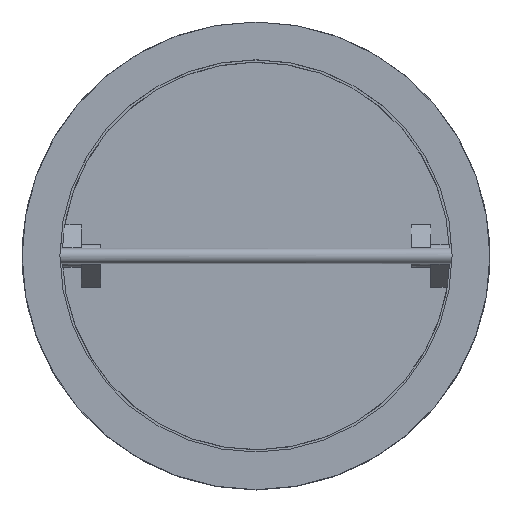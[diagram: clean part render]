
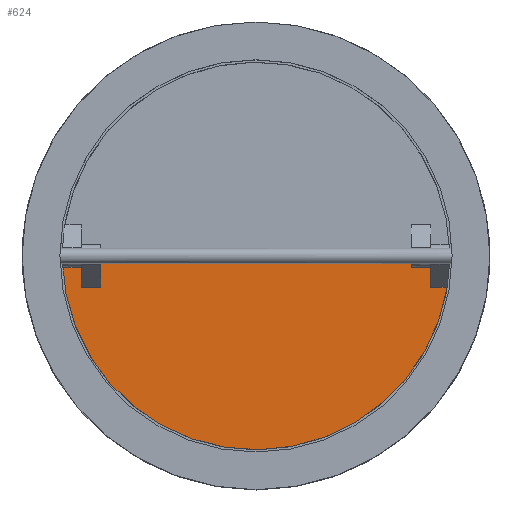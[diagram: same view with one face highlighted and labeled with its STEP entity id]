
A CAD part, top view. The second image highlights one B-rep face of the part: STEP entity #624.
In plain terms, the highlighted planar face has unit normal (0, 0, 1).
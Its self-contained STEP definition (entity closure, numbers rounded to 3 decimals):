
#624=ADVANCED_FACE('',(#1209),#1211,.T.);
#1209=FACE_BOUND('',#1210,.T.);
#1210=EDGE_LOOP('',(#1631,#1632,#1633,#1634,#1635,#1636,#1637,#1638));
#1211=PLANE('',#1212);
#1212=AXIS2_PLACEMENT_3D('',#1213,#1214,#1215);
#1213=CARTESIAN_POINT('',(0.,0.,64.));
#1214=DIRECTION('',(0.,0.,1.));
#1215=DIRECTION('',(0.,1.,0.));
#1631=ORIENTED_EDGE('',*,*,#1880,.F.);
#1632=ORIENTED_EDGE('',*,*,#1881,.F.);
#1633=ORIENTED_EDGE('',*,*,#1828,.T.);
#1634=ORIENTED_EDGE('',*,*,#1838,.T.);
#1635=ORIENTED_EDGE('',*,*,#1882,.F.);
#1636=ORIENTED_EDGE('',*,*,#1883,.F.);
#1637=ORIENTED_EDGE('',*,*,#1832,.T.);
#1638=ORIENTED_EDGE('',*,*,#1884,.F.);
#1828=EDGE_CURVE('',#2129,#2127,#2130,.T.);
#1832=EDGE_CURVE('',#2137,#2135,#2138,.T.);
#1838=EDGE_CURVE('',#2127,#2146,#2148,.T.);
#1880=EDGE_CURVE('',#2215,#2216,#2217,.T.);
#1881=EDGE_CURVE('',#2129,#2215,#2218,.T.);
#1882=EDGE_CURVE('',#2219,#2146,#2220,.T.);
#1883=EDGE_CURVE('',#2137,#2219,#2221,.T.);
#1884=EDGE_CURVE('',#2216,#2135,#2222,.F.);
#2127=VERTEX_POINT('',#3912);
#2129=VERTEX_POINT('',#3916);
#2130=LINE('',#3917,#3918);
#2135=VERTEX_POINT('',#3928);
#2137=VERTEX_POINT('',#3932);
#2138=LINE('',#3933,#3934);
#2146=VERTEX_POINT('',#3982);
#2148=CIRCLE('',#3987,202.5);
#2215=VERTEX_POINT('',#4292);
#2216=VERTEX_POINT('',#4293);
#2217=LINE('',#4294,#4295);
#2218=LINE('',#4297,#4298);
#2219=VERTEX_POINT('',#4300);
#2220=LINE('',#4301,#4302);
#2221=LINE('',#4304,#4305);
#2222=LINE('',#4307,#4308);
#3912=CARTESIAN_POINT('',(-202.46,-4.,64.));
#3916=CARTESIAN_POINT('',(-182.54,-4.,64.));
#3917=CARTESIAN_POINT('',(-182.54,-4.,64.));
#3918=VECTOR('',#3919,1.);
#3919=DIRECTION('',(-1.,0.,0.));
#3928=CARTESIAN_POINT('',(-162.54,-4.,64.));
#3932=CARTESIAN_POINT('',(182.46,-4.,64.));
#3933=CARTESIAN_POINT('',(182.46,-4.,64.));
#3934=VECTOR('',#3935,1.);
#3935=DIRECTION('',(-1.,0.,0.));
#3982=CARTESIAN_POINT('',(199.884,-32.447,64.));
#3987=AXIS2_PLACEMENT_3D('',#3988,#3989,#3990);
#3988=CARTESIAN_POINT('',(0.,0.,64.));
#3989=DIRECTION('',(0.,0.,1.));
#3990=DIRECTION('',(-1.,-0.02,0.));
#4292=CARTESIAN_POINT('',(-182.54,-32.447,64.));
#4293=CARTESIAN_POINT('',(-162.54,-32.447,64.));
#4294=CARTESIAN_POINT('',(-182.54,-32.447,64.));
#4295=VECTOR('',#4296,1.);
#4296=DIRECTION('',(1.,0.,0.));
#4297=CARTESIAN_POINT('',(-182.54,-4.,64.));
#4298=VECTOR('',#4299,1.);
#4299=DIRECTION('',(0.,-1.,0.));
#4300=CARTESIAN_POINT('',(182.46,-32.447,64.));
#4301=CARTESIAN_POINT('',(182.46,-32.447,64.));
#4302=VECTOR('',#4303,1.);
#4303=DIRECTION('',(1.,0.,0.));
#4304=CARTESIAN_POINT('',(182.46,-4.,64.));
#4305=VECTOR('',#4306,1.);
#4306=DIRECTION('',(0.,-1.,0.));
#4307=CARTESIAN_POINT('',(-162.54,-4.,64.));
#4308=VECTOR('',#4309,1.);
#4309=DIRECTION('',(0.,-1.,0.));
